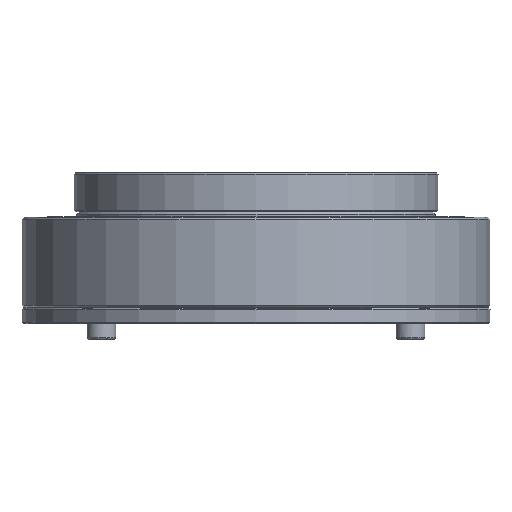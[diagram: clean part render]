
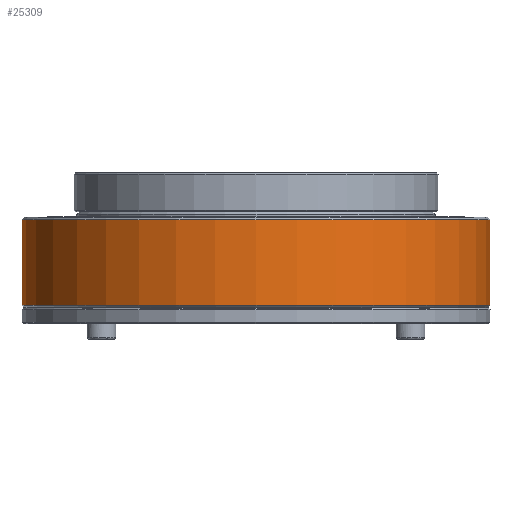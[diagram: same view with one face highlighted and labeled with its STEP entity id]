
A CAD part, front view. The second image highlights one B-rep face of the part: STEP entity #25309.
In plain terms, the highlighted cylindrical face has radius 45 mm (diameter 90 mm), a partial arc.
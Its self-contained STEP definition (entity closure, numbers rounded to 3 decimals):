
#3171 = CARTESIAN_POINT ( 'NONE',  ( 45., 0., -8.75 ) ) ;
#4527 = CARTESIAN_POINT ( 'NONE',  ( 0., 0., 7.75 ) ) ;
#5266 = VERTEX_POINT ( 'NONE', #7881 ) ;
#6250 = EDGE_CURVE ( 'NONE', #11353, #36920, #28667, .T. ) ;
#7881 = CARTESIAN_POINT ( 'NONE',  ( 45., 0., 7.75 ) ) ;
#7987 = CARTESIAN_POINT ( 'NONE',  ( -45., 0., -9.25 ) ) ;
#9268 = FACE_OUTER_BOUND ( 'NONE', #60062, .T. ) ;
#9335 = DIRECTION ( 'NONE',  ( -1., 0., 0. ) ) ;
#11353 = VERTEX_POINT ( 'NONE', #43763 ) ;
#12841 = DIRECTION ( 'NONE',  ( 0., 0., -1. ) ) ;
#13176 = ORIENTED_EDGE ( 'NONE', *, *, #6250, .T. ) ;
#15025 = VECTOR ( 'NONE', #12841, 1000. ) ;
#15233 = CARTESIAN_POINT ( 'NONE',  ( 0., 0., -8.75 ) ) ;
#18048 = CARTESIAN_POINT ( 'NONE',  ( -45., 0., 7.75 ) ) ;
#19514 = CARTESIAN_POINT ( 'NONE',  ( 0., 0., -9.25 ) ) ;
#20089 = DIRECTION ( 'NONE',  ( -1., 0., 0. ) ) ;
#20407 = ORIENTED_EDGE ( 'NONE', *, *, #28033, .T. ) ;
#22279 = ORIENTED_EDGE ( 'NONE', *, *, #52394, .F. ) ;
#24711 = CIRCLE ( 'NONE', #25670, 45. ) ;
#25309 = ADVANCED_FACE ( 'NONE', ( #9268 ), #34775, .T. ) ;
#25670 = AXIS2_PLACEMENT_3D ( 'NONE', #4527, #38027, #9335 ) ;
#25765 = CARTESIAN_POINT ( 'NONE',  ( 45., 0., -9.25 ) ) ;
#28033 = EDGE_CURVE ( 'NONE', #58279, #11353, #40442, .T. ) ;
#28667 = CIRCLE ( 'NONE', #39338, 45. ) ;
#30083 = LINE ( 'NONE', #25765, #52459 ) ;
#34771 = AXIS2_PLACEMENT_3D ( 'NONE', #19514, #43303, #52942 ) ;
#34775 = CYLINDRICAL_SURFACE ( 'NONE', #34771, 45. ) ;
#36920 = VERTEX_POINT ( 'NONE', #3171 ) ;
#38027 = DIRECTION ( 'NONE',  ( 0., 0., -1. ) ) ;
#39338 = AXIS2_PLACEMENT_3D ( 'NONE', #15233, #48690, #20089 ) ;
#40029 = EDGE_CURVE ( 'NONE', #5266, #58279, #24711, .T. ) ;
#40442 = LINE ( 'NONE', #7987, #15025 ) ;
#43303 = DIRECTION ( 'NONE',  ( 0., 0., -1. ) ) ;
#43763 = CARTESIAN_POINT ( 'NONE',  ( -45., 0., -8.75 ) ) ;
#45360 = ORIENTED_EDGE ( 'NONE', *, *, #40029, .T. ) ;
#48690 = DIRECTION ( 'NONE',  ( 0., 0., 1. ) ) ;
#52394 = EDGE_CURVE ( 'NONE', #5266, #36920, #30083, .T. ) ;
#52459 = VECTOR ( 'NONE', #54744, 1000. ) ;
#52942 = DIRECTION ( 'NONE',  ( -1., 0., 0. ) ) ;
#54744 = DIRECTION ( 'NONE',  ( 0., 0., -1. ) ) ;
#58279 = VERTEX_POINT ( 'NONE', #18048 ) ;
#60062 = EDGE_LOOP ( 'NONE', ( #22279, #45360, #20407, #13176 ) ) ;
